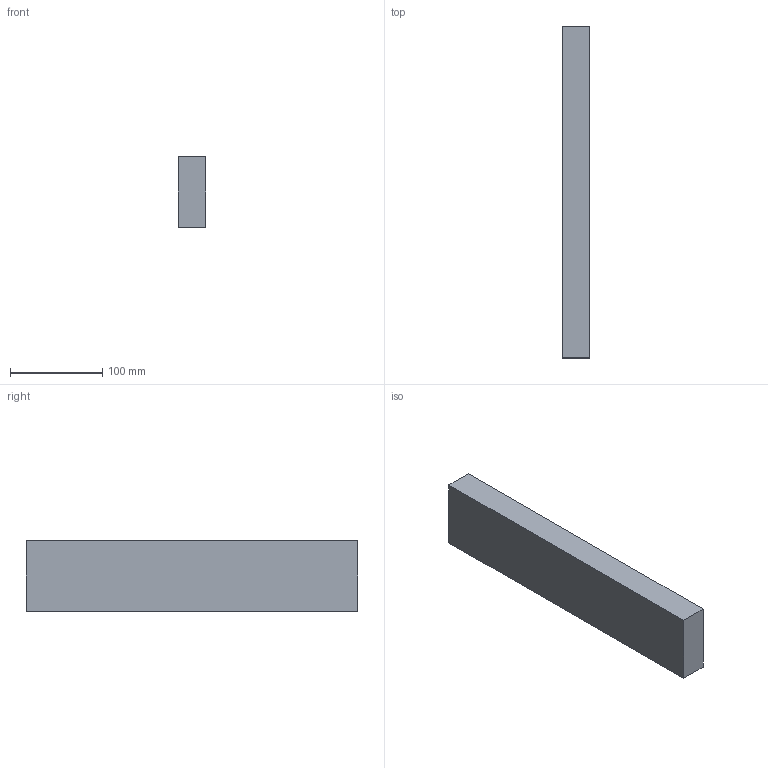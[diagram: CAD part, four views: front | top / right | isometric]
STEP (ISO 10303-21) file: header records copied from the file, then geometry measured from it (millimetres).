
FILE_DESCRIPTION(('Open CASCADE Model'),'2;1');
FILE_NAME('Open CASCADE Shape Model','2026-10-16T18:03:45',('Author'),( 'Open CASCADE'),'Open CASCADE STEP processor 7.8','Open CASCADE 7.8' ,'Unknown');
FILE_SCHEMA(('AUTOMOTIVE_DESIGN { 1 0 10303 214 1 1 1 1 }'));
Length unit declared in the file: millimetre
Products named in the file (1): Open CASCADE STEP translator 7.8 47
Bounding box: 30 x 360 x 77 mm (x, y, z)
Volume: 831600 mm3; surface area: 81660 mm2
Topology: 1 solids, 1 shells, 6 faces, 12 edges, 8 vertices
Faces by surface type: plane 6
Entity records: 322 total; most frequent: CARTESIAN_POINT 51, DIRECTION 50, LINE 36, VECTOR 36, ORIENTED_EDGE 24, PCURVE 24, DEFINITIONAL_REPRESENTATION 24, EDGE_CURVE 12
